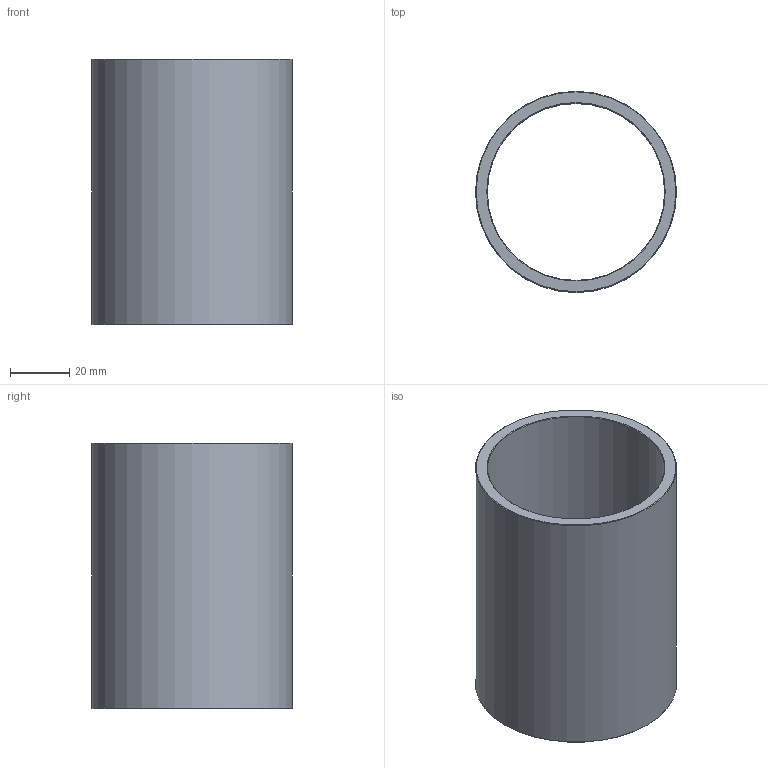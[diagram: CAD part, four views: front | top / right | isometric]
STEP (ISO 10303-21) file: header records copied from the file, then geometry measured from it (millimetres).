
FILE_DESCRIPTION(('STEP AP203'),'1');
FILE_NAME('C:/Users/Rodrigo/Desktop/GA4.060.090-1.step','2016-11-08T12:18:16',(' '),(' '),'Spatial InterOp 3D',' ',' ');
FILE_SCHEMA(('CONFIG_CONTROL_DESIGN'));
Length unit declared in the file: millimetre
Products named in the file (1): 1
Bounding box: 68 x 68 x 90 mm (x, y, z)
Volume: 72366.2 mm3; surface area: 37705.4 mm2
Topology: 1 solids, 1 shells, 8 faces, 14 edges, 8 vertices
Faces by surface type: cone 4, cylinder 2, plane 2
Full cylindrical faces by diameter (mm): 60 x1, 68 x1
Entity records: 212 total; most frequent: DIRECTION 34, CARTESIAN_POINT 25, AXIS2_PLACEMENT_3D 17, EDGE_LOOP 16, ORIENTED_EDGE 16, FACE_OUTER_BOUND 10, ADVANCED_FACE 8, EDGE_CURVE 8
